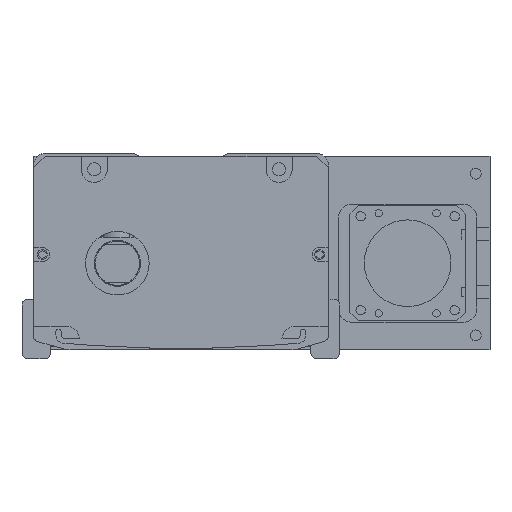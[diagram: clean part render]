
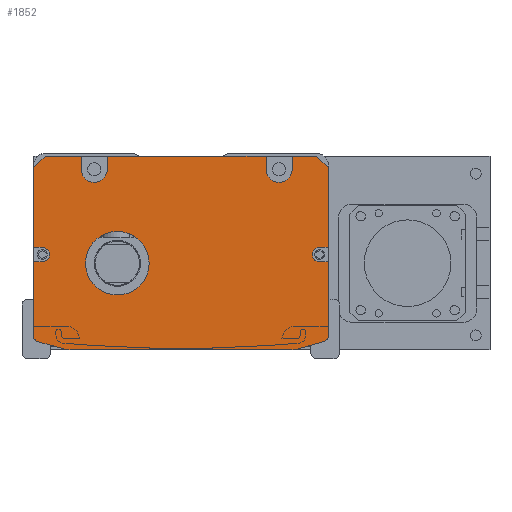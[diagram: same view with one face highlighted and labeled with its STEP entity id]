
A CAD part, front view. The second image highlights one B-rep face of the part: STEP entity #1852.
In plain terms, the highlighted planar face has unit normal (0, -1, 0).
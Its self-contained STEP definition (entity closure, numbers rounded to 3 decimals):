
#1852=ADVANCED_FACE('',(#4440,#4441),#2411,.F.);
#2411=PLANE('',#14145);
#2952=LINE('',#27134,#3751);
#2956=LINE('',#27143,#3755);
#2964=LINE('',#27170,#3763);
#2968=LINE('',#27179,#3767);
#2975=LINE('',#27195,#3774);
#2977=LINE('',#27200,#3776);
#2992=LINE('',#27243,#3791);
#2994=LINE('',#27251,#3793);
#2997=LINE('',#27255,#3796);
#3018=LINE('',#27323,#3817);
#3022=LINE('',#27332,#3821);
#3026=LINE('',#27341,#3825);
#3030=LINE('',#27350,#3829);
#3034=LINE('',#27366,#3833);
#3038=LINE('',#27372,#3837);
#3039=LINE('',#27373,#3838);
#3041=LINE('',#27389,#3840);
#3042=LINE('',#27390,#3841);
#3043=LINE('',#27391,#3842);
#3044=LINE('',#27392,#3843);
#3751=VECTOR('',#16697,1.);
#3755=VECTOR('',#16703,1.);
#3763=VECTOR('',#16725,1.);
#3767=VECTOR('',#16731,1.);
#3774=VECTOR('',#16740,1.);
#3776=VECTOR('',#16744,1.);
#3791=VECTOR('',#16783,1.);
#3793=VECTOR('',#16793,1.);
#3796=VECTOR('',#16798,1.);
#3817=VECTOR('',#16873,1.);
#3821=VECTOR('',#16879,1.);
#3825=VECTOR('',#16885,1.);
#3829=VECTOR('',#16891,1.);
#3833=VECTOR('',#16909,1.);
#3837=VECTOR('',#16913,1.);
#3838=VECTOR('',#16914,1.);
#3840=VECTOR('',#16938,1.);
#3841=VECTOR('',#16939,1.);
#3842=VECTOR('',#16940,1.);
#3843=VECTOR('',#16941,1.);
#4440=FACE_BOUND('',#5358,.T.);
#4441=FACE_BOUND('',#5359,.T.);
#5358=EDGE_LOOP('',(#7865,#7866,#7867,#7868,#7869,#7870,#7871,#7872,#7873,
#7874,#7875,#7876,#7877,#7878,#7879,#7880,#7881,#7882,#7883,#7884,#7885,
#7886,#7887,#7888,#7889,#7890,#7891,#7892));
#5359=EDGE_LOOP('',(#7893));
#7865=ORIENTED_EDGE('',*,*,#11922,.T.);
#7866=ORIENTED_EDGE('',*,*,#11799,.T.);
#7867=ORIENTED_EDGE('',*,*,#11909,.T.);
#7868=ORIENTED_EDGE('',*,*,#11826,.F.);
#7869=ORIENTED_EDGE('',*,*,#11863,.T.);
#7870=ORIENTED_EDGE('',*,*,#11828,.F.);
#7871=ORIENTED_EDGE('',*,*,#11914,.T.);
#7872=ORIENTED_EDGE('',*,*,#11815,.F.);
#7873=ORIENTED_EDGE('',*,*,#11860,.T.);
#7874=ORIENTED_EDGE('',*,*,#11819,.F.);
#7875=ORIENTED_EDGE('',*,*,#11913,.T.);
#7876=ORIENTED_EDGE('',*,*,#11803,.T.);
#7877=ORIENTED_EDGE('',*,*,#11923,.T.);
#7878=ORIENTED_EDGE('',*,*,#11893,.T.);
#7879=ORIENTED_EDGE('',*,*,#11921,.T.);
#7880=ORIENTED_EDGE('',*,*,#11889,.T.);
#7881=ORIENTED_EDGE('',*,*,#11924,.T.);
#7882=ORIENTED_EDGE('',*,*,#11846,.T.);
#7883=ORIENTED_EDGE('',*,*,#11849,.T.);
#7884=ORIENTED_EDGE('',*,*,#11852,.T.);
#7885=ORIENTED_EDGE('',*,*,#11853,.T.);
#7886=ORIENTED_EDGE('',*,*,#11809,.T.);
#7887=ORIENTED_EDGE('',*,*,#11856,.T.);
#7888=ORIENTED_EDGE('',*,*,#11811,.T.);
#7889=ORIENTED_EDGE('',*,*,#11925,.T.);
#7890=ORIENTED_EDGE('',*,*,#11901,.T.);
#7891=ORIENTED_EDGE('',*,*,#11920,.T.);
#7892=ORIENTED_EDGE('',*,*,#11897,.T.);
#7893=ORIENTED_EDGE('',*,*,#11865,.T.);
#10235=VERTEX_POINT('',#27135);
#10236=VERTEX_POINT('',#27136);
#10239=VERTEX_POINT('',#27144);
#10240=VERTEX_POINT('',#27145);
#10245=VERTEX_POINT('',#27156);
#10246=VERTEX_POINT('',#27158);
#10247=VERTEX_POINT('',#27162);
#10248=VERTEX_POINT('',#27163);
#10251=VERTEX_POINT('',#27171);
#10252=VERTEX_POINT('',#27172);
#10255=VERTEX_POINT('',#27180);
#10256=VERTEX_POINT('',#27181);
#10260=VERTEX_POINT('',#27190);
#10262=VERTEX_POINT('',#27194);
#10263=VERTEX_POINT('',#27198);
#10265=VERTEX_POINT('',#27201);
#10275=VERTEX_POINT('',#27231);
#10278=VERTEX_POINT('',#27236);
#10280=VERTEX_POINT('',#27242);
#10282=VERTEX_POINT('',#27248);
#10285=VERTEX_POINT('',#27274);
#10301=VERTEX_POINT('',#27321);
#10303=VERTEX_POINT('',#27324);
#10306=VERTEX_POINT('',#27331);
#10307=VERTEX_POINT('',#27333);
#10309=VERTEX_POINT('',#27339);
#10311=VERTEX_POINT('',#27342);
#10314=VERTEX_POINT('',#27349);
#10315=VERTEX_POINT('',#27351);
#11799=EDGE_CURVE('',#10235,#10236,#2952,.T.);
#11803=EDGE_CURVE('',#10239,#10240,#2956,.T.);
#11809=EDGE_CURVE('',#10246,#10245,#12996,.T.);
#11811=EDGE_CURVE('',#10247,#10248,#12997,.T.);
#11815=EDGE_CURVE('',#10251,#10252,#2964,.T.);
#11819=EDGE_CURVE('',#10255,#10256,#2968,.T.);
#11826=EDGE_CURVE('',#10262,#10260,#2975,.T.);
#11828=EDGE_CURVE('',#10263,#10265,#2977,.T.);
#11846=EDGE_CURVE('',#10275,#10278,#13004,.T.);
#11849=EDGE_CURVE('',#10278,#10280,#2992,.T.);
#11852=EDGE_CURVE('',#10280,#10282,#13006,.T.);
#11853=EDGE_CURVE('',#10282,#10246,#2994,.T.);
#11856=EDGE_CURVE('',#10245,#10247,#2997,.T.);
#11860=EDGE_CURVE('',#10251,#10256,#13009,.T.);
#11863=EDGE_CURVE('',#10262,#10265,#13012,.T.);
#11865=EDGE_CURVE('',#10285,#10285,#13013,.T.);
#11889=EDGE_CURVE('',#10303,#10301,#3018,.T.);
#11893=EDGE_CURVE('',#10307,#10306,#3022,.T.);
#11897=EDGE_CURVE('',#10311,#10309,#3026,.T.);
#11901=EDGE_CURVE('',#10315,#10314,#3030,.T.);
#11909=EDGE_CURVE('',#10236,#10260,#3034,.T.);
#11913=EDGE_CURVE('',#10255,#10239,#3038,.T.);
#11914=EDGE_CURVE('',#10263,#10252,#3039,.T.);
#11920=EDGE_CURVE('',#10314,#10311,#13027,.T.);
#11921=EDGE_CURVE('',#10306,#10303,#13028,.T.);
#11922=EDGE_CURVE('',#10309,#10235,#3041,.T.);
#11923=EDGE_CURVE('',#10240,#10307,#3042,.T.);
#11924=EDGE_CURVE('',#10301,#10275,#3043,.T.);
#11925=EDGE_CURVE('',#10248,#10315,#3044,.T.);
#12996=CIRCLE('',#14072,10.);
#12997=CIRCLE('',#14074,2.);
#13004=CIRCLE('',#14090,2.);
#13006=CIRCLE('',#14094,10.);
#13009=CIRCLE('',#14102,4.5);
#13012=CIRCLE('',#14107,4.5);
#13013=CIRCLE('',#14110,11.);
#13027=CIRCLE('',#14141,2.5);
#13028=CIRCLE('',#14143,2.5);
#14072=AXIS2_PLACEMENT_3D('',#27157,#16712,#16713);
#14074=AXIS2_PLACEMENT_3D('',#27161,#16717,#16718);
#14090=AXIS2_PLACEMENT_3D('',#27237,#16777,#16778);
#14094=AXIS2_PLACEMENT_3D('',#27249,#16789,#16790);
#14102=AXIS2_PLACEMENT_3D('',#27263,#16810,#16811);
#14107=AXIS2_PLACEMENT_3D('',#27269,#16820,#16821);
#14110=AXIS2_PLACEMENT_3D('',#27273,#16827,#16828);
#14141=AXIS2_PLACEMENT_3D('',#27385,#16930,#16931);
#14143=AXIS2_PLACEMENT_3D('',#27387,#16934,#16935);
#14145=AXIS2_PLACEMENT_3D('',#27393,#16942,#16943);
#16697=DIRECTION('',(-0.707,0.,0.707));
#16703=DIRECTION('',(-0.707,0.,-0.707));
#16712=DIRECTION('',(0.,-1.,0.));
#16713=DIRECTION('',(0.,0.,-1.));
#16717=DIRECTION('',(0.,-1.,0.));
#16718=DIRECTION('',(0.,0.,-1.));
#16725=DIRECTION('',(0.,0.,1.));
#16731=DIRECTION('',(0.,0.,-1.));
#16740=DIRECTION('',(0.,0.,1.));
#16744=DIRECTION('',(0.,0.,-1.));
#16777=DIRECTION('',(0.,-1.,0.));
#16778=DIRECTION('',(0.,0.,1.));
#16783=DIRECTION('',(0.963,0.,-0.269));
#16789=DIRECTION('',(0.,-1.,0.));
#16790=DIRECTION('',(0.,0.,1.));
#16793=DIRECTION('',(1.,0.,0.));
#16798=DIRECTION('',(0.963,0.,0.269));
#16810=DIRECTION('',(0.,1.,0.));
#16811=DIRECTION('',(0.,0.,1.));
#16820=DIRECTION('',(0.,1.,0.));
#16821=DIRECTION('',(0.,0.,1.));
#16827=DIRECTION('',(0.,1.,0.));
#16828=DIRECTION('',(0.,0.,1.));
#16873=DIRECTION('',(-1.,0.,0.));
#16879=DIRECTION('',(1.,0.,0.));
#16885=DIRECTION('',(1.,0.,0.));
#16891=DIRECTION('',(-1.,0.,0.));
#16909=DIRECTION('',(-1.,0.,0.));
#16913=DIRECTION('',(-1.,0.,0.));
#16914=DIRECTION('',(-1.,0.,0.));
#16930=DIRECTION('',(0.,1.,0.));
#16931=DIRECTION('',(0.,0.,1.));
#16934=DIRECTION('',(0.,1.,0.));
#16935=DIRECTION('',(0.,0.,1.));
#16938=DIRECTION('',(0.,0.,1.));
#16939=DIRECTION('',(0.,0.,-1.));
#16940=DIRECTION('',(0.,0.,-1.));
#16941=DIRECTION('',(0.,0.,1.));
#16942=DIRECTION('',(0.,1.,0.));
#16943=DIRECTION('',(-1.,0.,0.));
#27134=CARTESIAN_POINT('',(43.808,-617.5,-1.));
#27135=CARTESIAN_POINT('',(47.808,-617.5,-5.));
#27136=CARTESIAN_POINT('',(43.808,-617.5,-1.));
#27143=CARTESIAN_POINT('',(-54.192,-617.5,-5.));
#27144=CARTESIAN_POINT('',(-50.192,-617.5,-1.));
#27145=CARTESIAN_POINT('',(-54.192,-617.5,-5.));
#27156=CARTESIAN_POINT('',(37.424,-617.5,-67.631));
#27157=CARTESIAN_POINT('',(34.733,-617.5,-58.));
#27158=CARTESIAN_POINT('',(34.733,-617.5,-68.));
#27161=CARTESIAN_POINT('',(45.808,-617.5,-63.212));
#27162=CARTESIAN_POINT('',(46.346,-617.5,-65.138));
#27163=CARTESIAN_POINT('',(47.808,-617.5,-63.212));
#27170=CARTESIAN_POINT('',(-28.692,-617.5,-3.5));
#27171=CARTESIAN_POINT('',(-28.692,-617.5,-5.5));
#27172=CARTESIAN_POINT('',(-28.692,-617.5,-1.));
#27179=CARTESIAN_POINT('',(-37.692,-617.5,-1.));
#27180=CARTESIAN_POINT('',(-37.692,-617.5,-1.));
#27181=CARTESIAN_POINT('',(-37.692,-617.5,-5.5));
#27190=CARTESIAN_POINT('',(35.308,-617.5,-1.));
#27194=CARTESIAN_POINT('',(35.308,-617.5,-5.5));
#27195=CARTESIAN_POINT('',(35.308,-617.5,-1.));
#27198=CARTESIAN_POINT('',(26.308,-617.5,-1.));
#27200=CARTESIAN_POINT('',(26.308,-617.5,-1.));
#27201=CARTESIAN_POINT('',(26.308,-617.5,-5.5));
#27231=CARTESIAN_POINT('',(-54.192,-617.5,-63.212));
#27236=CARTESIAN_POINT('',(-52.731,-617.5,-65.138));
#27237=CARTESIAN_POINT('',(-52.192,-617.5,-63.212));
#27242=CARTESIAN_POINT('',(-43.809,-617.5,-67.631));
#27243=CARTESIAN_POINT('',(-55.807,-617.5,-64.279));
#27248=CARTESIAN_POINT('',(-41.118,-617.5,-68.));
#27249=CARTESIAN_POINT('',(-41.118,-617.5,-58.));
#27251=CARTESIAN_POINT('',(-54.692,-617.5,-68.));
#27255=CARTESIAN_POINT('',(49.422,-617.5,-64.279));
#27263=CARTESIAN_POINT('',(-33.192,-617.5,-5.5));
#27269=CARTESIAN_POINT('',(30.808,-617.5,-5.5));
#27273=CARTESIAN_POINT('',(-25.192,-617.5,-38.));
#27274=CARTESIAN_POINT('',(-25.192,-617.5,-27.));
#27321=CARTESIAN_POINT('',(-54.192,-617.5,-37.5));
#27323=CARTESIAN_POINT('',(-3.192,-617.5,-37.5));
#27324=CARTESIAN_POINT('',(-51.192,-617.5,-37.5));
#27331=CARTESIAN_POINT('',(-51.192,-617.5,-32.5));
#27332=CARTESIAN_POINT('',(-3.192,-617.5,-32.5));
#27333=CARTESIAN_POINT('',(-54.192,-617.5,-32.5));
#27339=CARTESIAN_POINT('',(47.808,-617.5,-32.5));
#27341=CARTESIAN_POINT('',(-3.192,-617.5,-32.5));
#27342=CARTESIAN_POINT('',(44.808,-617.5,-32.5));
#27349=CARTESIAN_POINT('',(44.808,-617.5,-37.5));
#27350=CARTESIAN_POINT('',(-3.192,-617.5,-37.5));
#27351=CARTESIAN_POINT('',(47.808,-617.5,-37.5));
#27366=CARTESIAN_POINT('',(-3.192,-617.5,-1.));
#27372=CARTESIAN_POINT('',(-54.192,-617.5,-1.));
#27373=CARTESIAN_POINT('',(-54.192,-617.5,-1.));
#27385=CARTESIAN_POINT('',(44.808,-617.5,-35.));
#27387=CARTESIAN_POINT('',(-51.192,-617.5,-35.));
#27389=CARTESIAN_POINT('',(47.808,-617.5,-1.));
#27390=CARTESIAN_POINT('',(-54.192,-617.5,-62.));
#27391=CARTESIAN_POINT('',(-54.192,-617.5,-62.));
#27392=CARTESIAN_POINT('',(47.808,-617.5,-1.));
#27393=CARTESIAN_POINT('',(-3.192,-617.5,-1.));
